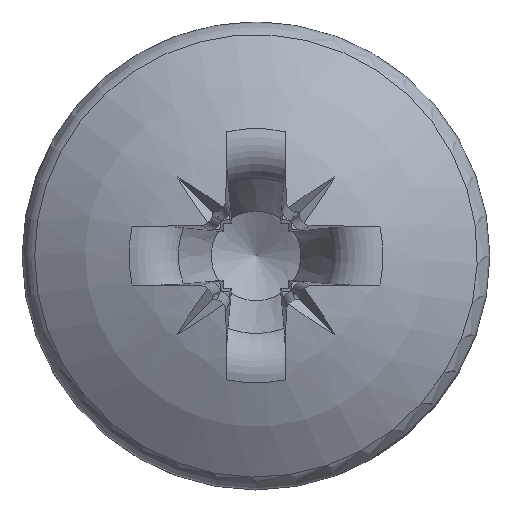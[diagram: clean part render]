
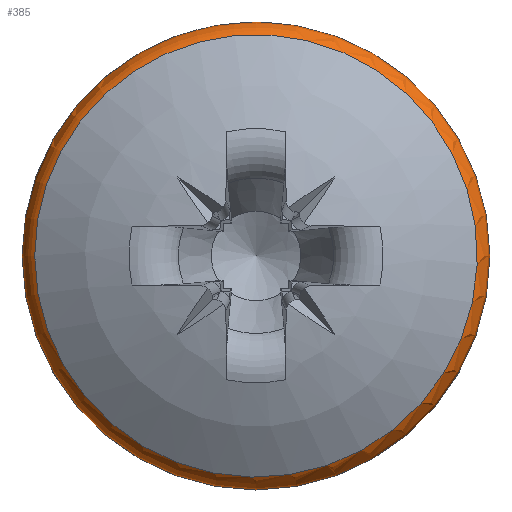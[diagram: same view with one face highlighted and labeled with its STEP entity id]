
A CAD part, top view. The second image highlights one B-rep face of the part: STEP entity #385.
In plain terms, the highlighted toroidal (fillet/blend) face has major radius 3.033 mm and minor radius 0.467 mm.
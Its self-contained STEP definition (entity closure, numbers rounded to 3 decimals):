
#291=TOROIDAL_SURFACE('',#1705,3.033,0.467);
#307=FACE_BOUND('',#589,.T.);
#308=FACE_BOUND('',#590,.T.);
#385=ADVANCED_FACE('',(#307,#308),#291,.T.);
#589=EDGE_LOOP('',(#1001));
#590=EDGE_LOOP('',(#1002));
#626=CIRCLE('',#1590,3.311);
#651=CIRCLE('',#1620,3.5);
#1001=ORIENTED_EDGE('',*,*,#1329,.F.);
#1002=ORIENTED_EDGE('',*,*,#1288,.F.);
#1145=VERTEX_POINT('',#2653);
#1184=VERTEX_POINT('',#2894);
#1288=EDGE_CURVE('',#1145,#1145,#626,.T.);
#1329=EDGE_CURVE('',#1184,#1184,#651,.T.);
#1590=AXIS2_PLACEMENT_3D('',#2652,#1723,#1724);
#1620=AXIS2_PLACEMENT_3D('',#2893,#1784,#1785);
#1705=AXIS2_PLACEMENT_3D('',#3325,#2014,#2015);
#1723=DIRECTION('',(0.,0.,1.));
#1724=DIRECTION('',(-1.,0.,0.));
#1784=DIRECTION('',(0.,0.,-1.));
#1785=DIRECTION('',(-1.,0.,0.));
#2014=DIRECTION('',(0.,0.,-1.));
#2015=DIRECTION('',(-1.,0.,0.));
#2652=CARTESIAN_POINT('',(0.,0.,2.006));
#2653=CARTESIAN_POINT('',(-3.311,0.,2.006));
#2893=CARTESIAN_POINT('',(0.,0.,1.631));
#2894=CARTESIAN_POINT('',(-3.5,0.,1.631));
#3325=CARTESIAN_POINT('',(0.,0.,1.631));
